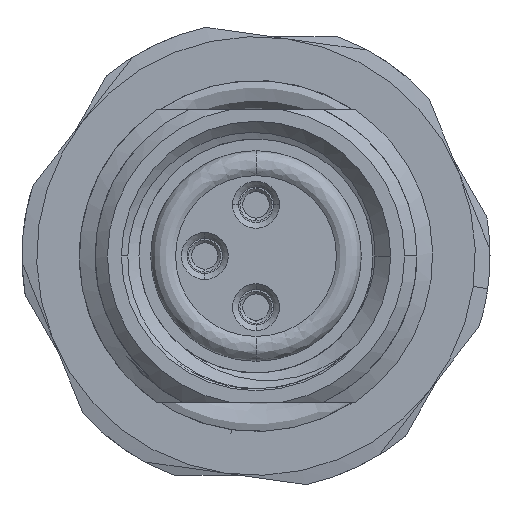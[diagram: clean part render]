
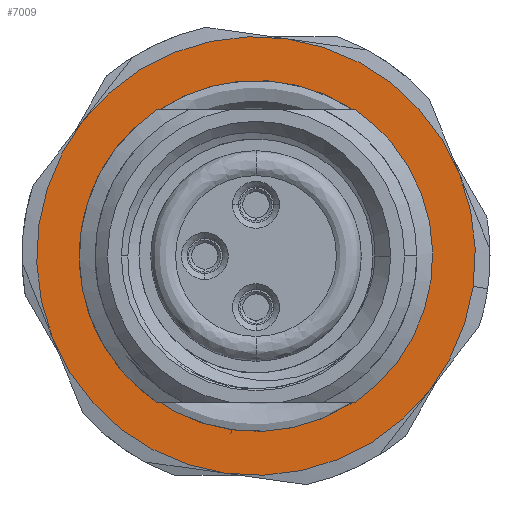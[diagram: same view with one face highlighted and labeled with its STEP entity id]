
A CAD part, left-side view. The second image highlights one B-rep face of the part: STEP entity #7009.
In plain terms, the highlighted planar face has unit normal (-1, 0, 0).
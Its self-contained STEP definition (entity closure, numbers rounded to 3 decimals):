
#66 = CIRCLE ( 'NONE', #6427, 6. ) ;
#161 = ORIENTED_EDGE ( 'NONE', *, *, #14566, .T. ) ;
#247 = CARTESIAN_POINT ( 'NONE',  ( -10.8, -12.192, -4.334 ) ) ;
#690 = CARTESIAN_POINT ( 'NONE',  ( -10.8, -2.374, 1.173 ) ) ;
#705 = DIRECTION ( 'NONE',  ( 0., -0.99, -0.139 ) ) ;
#735 = VERTEX_POINT ( 'NONE', #4205 ) ;
#973 = CARTESIAN_POINT ( 'NONE',  ( -10.8, -0.669, -1.186 ) ) ;
#1412 = DIRECTION ( 'NONE',  ( 0., -0.99, -0.139 ) ) ;
#1510 = DIRECTION ( 'NONE',  ( 1., 0., 0. ) ) ;
#2074 = AXIS2_PLACEMENT_3D ( 'NONE', #22979, #22699, #9794 ) ;
#2666 = DIRECTION ( 'NONE',  ( 0., -0.99, -0.139 ) ) ;
#2984 = VERTEX_POINT ( 'NONE', #5688 ) ;
#3423 = CIRCLE ( 'NONE', #2074, 7.5 ) ;
#3509 = B_SPLINE_CURVE_WITH_KNOTS ( 'NONE', 3,
 ( #25154, #690, #22746, #9474, #9662, #973 ),
 .UNSPECIFIED., .F., .F.,
 ( 4, 2, 4 ),
 ( 0., 0.002, 0.004 ),
 .UNSPECIFIED. ) ;
#3825 = CARTESIAN_POINT ( 'NONE',  ( -10.8, -5.414, -9.44 ) ) ;
#3894 = CARTESIAN_POINT ( 'NONE',  ( -10.8, -6.25, -3.498 ) ) ;
#4205 = CARTESIAN_POINT ( 'NONE',  ( -10.8, 0.704, -6.307 ) ) ;
#4739 = ORIENTED_EDGE ( 'NONE', *, *, #10373, .F. ) ;
#4740 = EDGE_CURVE ( 'NONE', #7543, #6403, #6373, .T. ) ;
#5048 = ORIENTED_EDGE ( 'NONE', *, *, #26704, .T. ) ;
#5170 = EDGE_LOOP ( 'NONE', ( #21336, #4739, #14807, #23606, #18546, #24821, #8899 ) ) ;
#5193 = DIRECTION ( 'NONE',  ( 1., 0., 0. ) ) ;
#5388 = AXIS2_PLACEMENT_3D ( 'NONE', #17149, #28447, #19646 ) ;
#5453 = LINE ( 'NONE', #20538, #18507 ) ;
#5688 = CARTESIAN_POINT ( 'NONE',  ( -10.8, -0.34, 1.12 ) ) ;
#5898 = CARTESIAN_POINT ( 'NONE',  ( -10.8, -6.25, -3.498 ) ) ;
#5980 = CARTESIAN_POINT ( 'NONE',  ( -10.8, -12.16, -8.116 ) ) ;
#6256 = ORIENTED_EDGE ( 'NONE', *, *, #22068, .F. ) ;
#6373 = CIRCLE ( 'NONE', #24184, 6. ) ;
#6403 = VERTEX_POINT ( 'NONE', #10575 ) ;
#6427 = AXIS2_PLACEMENT_3D ( 'NONE', #17909, #22529, #2666 ) ;
#6708 = EDGE_CURVE ( 'NONE', #8694, #16316, #12510, .T. ) ;
#6919 = EDGE_CURVE ( 'NONE', #17313, #8694, #23541, .T. ) ;
#7009 = ADVANCED_FACE ( 'NONE', ( #22518, #12876 ), #11420, .F. ) ;
#7044 = DIRECTION ( 'NONE',  ( 0., -0.99, -0.139 ) ) ;
#7474 = AXIS2_PLACEMENT_3D ( 'NONE', #17399, #10775, #8963 ) ;
#7543 = VERTEX_POINT ( 'NONE', #3825 ) ;
#7588 = DIRECTION ( 'NONE',  ( 1., 0., 0. ) ) ;
#7776 = DIRECTION ( 'NONE',  ( 0., -0.99, -0.139 ) ) ;
#8694 = VERTEX_POINT ( 'NONE', #9590 ) ;
#8899 = ORIENTED_EDGE ( 'NONE', *, *, #6708, .F. ) ;
#8963 = DIRECTION ( 'NONE',  ( 0., -0.99, -0.139 ) ) ;
#9474 = CARTESIAN_POINT ( 'NONE',  ( -10.8, -1.196, -0.136 ) ) ;
#9590 = CARTESIAN_POINT ( 'NONE',  ( -10.8, -13.677, -4.543 ) ) ;
#9662 = CARTESIAN_POINT ( 'NONE',  ( -10.8, -0.893, -0.644 ) ) ;
#9702 = DIRECTION ( 'NONE',  ( 0., -0.99, -0.139 ) ) ;
#9794 = DIRECTION ( 'NONE',  ( 0., -0.99, -0.139 ) ) ;
#10011 = DIRECTION ( 'NONE',  ( 0., -0.99, -0.139 ) ) ;
#10264 = AXIS2_PLACEMENT_3D ( 'NONE', #20179, #27341, #9702 ) ;
#10373 = EDGE_CURVE ( 'NONE', #20679, #17313, #24544, .T. ) ;
#10538 = ORIENTED_EDGE ( 'NONE', *, *, #4740, .T. ) ;
#10575 = CARTESIAN_POINT ( 'NONE',  ( -10.8, -0.308, -2.662 ) ) ;
#10775 = DIRECTION ( 'NONE',  ( 1., 0., 0. ) ) ;
#11420 = PLANE ( 'NONE',  #27753 ) ;
#11512 = DIRECTION ( 'NONE',  ( 0., -0.99, -0.139 ) ) ;
#12236 = CARTESIAN_POINT ( 'NONE',  ( -10.8, -0.568, -1.464 ) ) ;
#12245 = DIRECTION ( 'NONE',  ( 0., -0.99, -0.139 ) ) ;
#12363 = EDGE_CURVE ( 'NONE', #16316, #15927, #19649, .T. ) ;
#12499 = VERTEX_POINT ( 'NONE', #14311 ) ;
#12510 = CIRCLE ( 'NONE', #7474, 7.5 ) ;
#12876 = FACE_OUTER_BOUND ( 'NONE', #5170, .T. ) ;
#13284 = DIRECTION ( 'NONE',  ( 1., 0., 0. ) ) ;
#13587 = AXIS2_PLACEMENT_3D ( 'NONE', #27663, #25246, #12245 ) ;
#13890 = EDGE_CURVE ( 'NONE', #16886, #7543, #25861, .T. ) ;
#13937 = CARTESIAN_POINT ( 'NONE',  ( -10.8, -5.205, -10.925 ) ) ;
#14311 = CARTESIAN_POINT ( 'NONE',  ( -10.8, -2.859, 1.502 ) ) ;
#14566 = EDGE_CURVE ( 'NONE', #19357, #16886, #66, .T. ) ;
#14715 = CIRCLE ( 'NONE', #5388, 7.5 ) ;
#14807 = ORIENTED_EDGE ( 'NONE', *, *, #17409, .F. ) ;
#15927 = VERTEX_POINT ( 'NONE', #13937 ) ;
#16316 = VERTEX_POINT ( 'NONE', #5980 ) ;
#16375 = CARTESIAN_POINT ( 'NONE',  ( -10.8, -0.489, -1.747 ) ) ;
#16456 = CARTESIAN_POINT ( 'NONE',  ( -10.8, -0.669, -1.186 ) ) ;
#16466 = CARTESIAN_POINT ( 'NONE',  ( -10.8, -0.669, -1.186 ) ) ;
#16516 = CARTESIAN_POINT ( 'NONE',  ( -10.8, -6.25, -3.498 ) ) ;
#16557 = CARTESIAN_POINT ( 'NONE',  ( -10.8, -0.431, -2.035 ) ) ;
#16680 = CARTESIAN_POINT ( 'NONE',  ( -10.8, -7.295, 3.929 ) ) ;
#16886 = VERTEX_POINT ( 'NONE', #247 ) ;
#16894 = CARTESIAN_POINT ( 'NONE',  ( -10.8, -2.933, 1.502 ) ) ;
#17149 = CARTESIAN_POINT ( 'NONE',  ( -10.8, -6.25, -3.498 ) ) ;
#17313 = VERTEX_POINT ( 'NONE', #26678 ) ;
#17399 = CARTESIAN_POINT ( 'NONE',  ( -10.8, -6.25, -3.498 ) ) ;
#17409 = EDGE_CURVE ( 'NONE', #2984, #20679, #3423, .T. ) ;
#17909 = CARTESIAN_POINT ( 'NONE',  ( -10.8, -6.25, -3.498 ) ) ;
#17979 = EDGE_CURVE ( 'NONE', #12499, #19357, #5453, .T. ) ;
#18442 = EDGE_CURVE ( 'NONE', #735, #2984, #14715, .T. ) ;
#18507 = VECTOR ( 'NONE', #18791, 1000. ) ;
#18546 = ORIENTED_EDGE ( 'NONE', *, *, #27817, .F. ) ;
#18791 = DIRECTION ( 'NONE',  ( 0., -1., 0. ) ) ;
#19357 = VERTEX_POINT ( 'NONE', #16894 ) ;
#19646 = DIRECTION ( 'NONE',  ( 0., -0.99, -0.139 ) ) ;
#19649 = CIRCLE ( 'NONE', #10264, 7.5 ) ;
#20179 = CARTESIAN_POINT ( 'NONE',  ( -10.8, -6.25, -3.498 ) ) ;
#20350 = CARTESIAN_POINT ( 'NONE',  ( -10.8, -6.25, -3.498 ) ) ;
#20494 = CARTESIAN_POINT ( 'NONE',  ( -10.8, -0.431, -2.035 ) ) ;
#20538 = CARTESIAN_POINT ( 'NONE',  ( -10.8, -6.25, 1.502 ) ) ;
#20679 = VERTEX_POINT ( 'NONE', #16680 ) ;
#20952 = EDGE_LOOP ( 'NONE', ( #25114, #26075, #161, #23449, #10538, #5048, #6256 ) ) ;
#21336 = ORIENTED_EDGE ( 'NONE', *, *, #6919, .F. ) ;
#22006 = B_SPLINE_CURVE_WITH_KNOTS ( 'NONE', 3,
 ( #16466, #12236, #16375, #16557 ),
 .UNSPECIFIED., .F., .F.,
 ( 4, 4 ),
 ( 0., 0.001 ),
 .UNSPECIFIED. ) ;
#22068 = EDGE_CURVE ( 'NONE', #27247, #23424, #22006, .T. ) ;
#22432 = AXIS2_PLACEMENT_3D ( 'NONE', #5898, #25699, #10011 ) ;
#22518 = FACE_BOUND ( 'NONE', #20952, .T. ) ;
#22529 = DIRECTION ( 'NONE',  ( 1., 0., 0. ) ) ;
#22699 = DIRECTION ( 'NONE',  ( 1., 0., 0. ) ) ;
#22746 = CARTESIAN_POINT ( 'NONE',  ( -10.8, -1.937, 0.773 ) ) ;
#22763 = DIRECTION ( 'NONE',  ( 1., 0., 0. ) ) ;
#22786 = CIRCLE ( 'NONE', #23344, 7.5 ) ;
#22979 = CARTESIAN_POINT ( 'NONE',  ( -10.8, -6.25, -3.498 ) ) ;
#23173 = AXIS2_PLACEMENT_3D ( 'NONE', #3894, #1510, #1412 ) ;
#23344 = AXIS2_PLACEMENT_3D ( 'NONE', #16516, #7588, #7776 ) ;
#23424 = VERTEX_POINT ( 'NONE', #20494 ) ;
#23449 = ORIENTED_EDGE ( 'NONE', *, *, #13890, .T. ) ;
#23541 = CIRCLE ( 'NONE', #26260, 7.5 ) ;
#23606 = ORIENTED_EDGE ( 'NONE', *, *, #18442, .F. ) ;
#24184 = AXIS2_PLACEMENT_3D ( 'NONE', #26487, #13284, #7044 ) ;
#24544 = CIRCLE ( 'NONE', #23173, 7.5 ) ;
#24708 = CARTESIAN_POINT ( 'NONE',  ( -10.8, -6.25, -3.498 ) ) ;
#24821 = ORIENTED_EDGE ( 'NONE', *, *, #12363, .F. ) ;
#25114 = ORIENTED_EDGE ( 'NONE', *, *, #27049, .F. ) ;
#25154 = CARTESIAN_POINT ( 'NONE',  ( -10.8, -2.859, 1.502 ) ) ;
#25246 = DIRECTION ( 'NONE',  ( 1., 0., 0. ) ) ;
#25699 = DIRECTION ( 'NONE',  ( 1., 0., 0. ) ) ;
#25861 = CIRCLE ( 'NONE', #13587, 6. ) ;
#26075 = ORIENTED_EDGE ( 'NONE', *, *, #17979, .T. ) ;
#26260 = AXIS2_PLACEMENT_3D ( 'NONE', #20350, #5193, #705 ) ;
#26487 = CARTESIAN_POINT ( 'NONE',  ( -10.8, -6.25, -3.498 ) ) ;
#26678 = CARTESIAN_POINT ( 'NONE',  ( -10.8, -13.204, -0.689 ) ) ;
#26704 = EDGE_CURVE ( 'NONE', #6403, #23424, #27665, .T. ) ;
#27049 = EDGE_CURVE ( 'NONE', #12499, #27247, #3509, .T. ) ;
#27247 = VERTEX_POINT ( 'NONE', #16456 ) ;
#27341 = DIRECTION ( 'NONE',  ( 1., 0., 0. ) ) ;
#27663 = CARTESIAN_POINT ( 'NONE',  ( -10.8, -6.25, -3.498 ) ) ;
#27665 = CIRCLE ( 'NONE', #22432, 6. ) ;
#27753 = AXIS2_PLACEMENT_3D ( 'NONE', #24708, #22763, #11512 ) ;
#27817 = EDGE_CURVE ( 'NONE', #15927, #735, #22786, .T. ) ;
#28447 = DIRECTION ( 'NONE',  ( 1., 0., 0. ) ) ;
